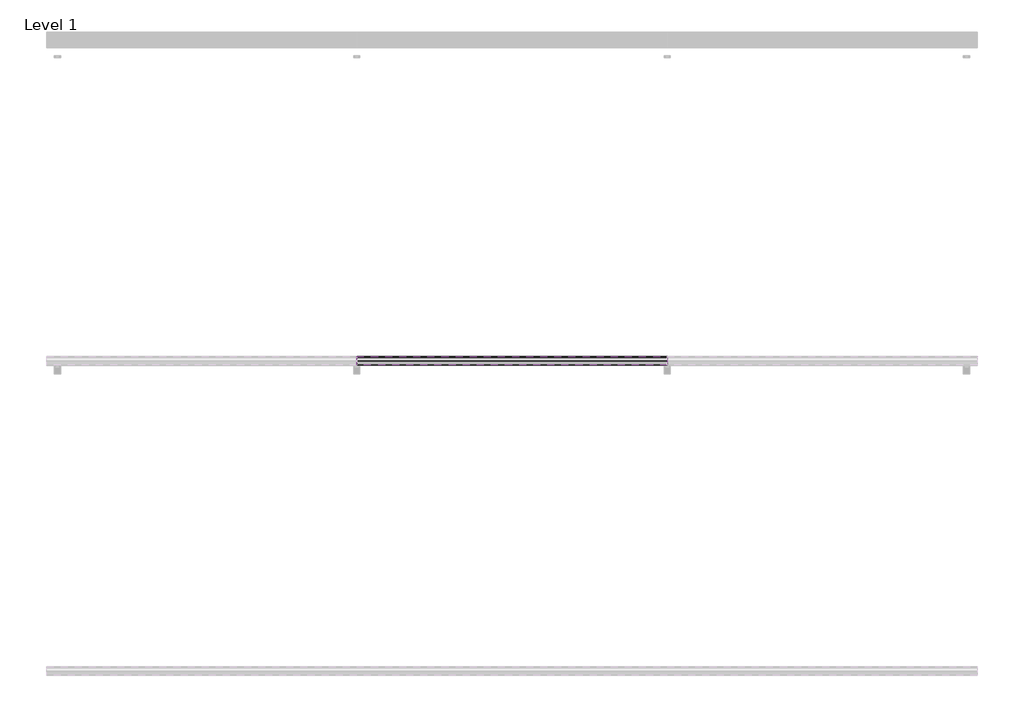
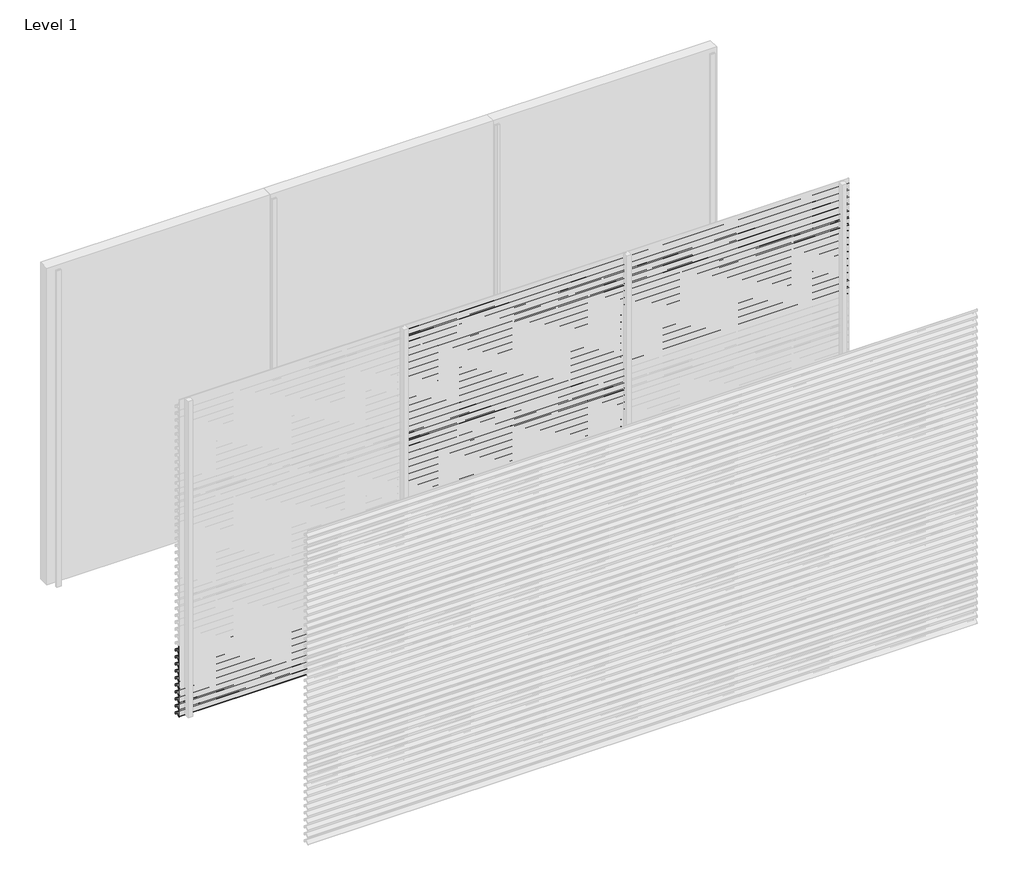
# One storey, part 14 of 27: 71 proxies.
"""IFC4 building model written with IfcOpenShell, lengths in millimetres."""

from ifc_helpers import new_model, si_unit, frame, origin, place, context, project, spatial, polyline, outline, extrude, element, save

model = new_model("IFC4")

# Units and contexts
model_context = context("Model", 3, world=origin())
ifc_project = project(units=[si_unit("LENGTHUNIT", "METRE", prefix="MILLI")], contexts=[model_context])

# Site, building, storey
site = spatial("IfcSite", under=ifc_project)
building = spatial("IfcBuilding", under=site)
storey = spatial("IfcBuildingStorey", under=building, Name="Level 1", Elevation=0.0)

# Proxies
placement = place(None, origin())
element("IfcBuildingElementProxy", 1, Name="Wall Sweeps", at=placement, inside=storey, context=model_context, shape_type="SweptSolid", body=[
    extrude(outline(polyline([(-29943.0, 603.2), (-29943.0, 583.5), (-29944.25, 584.5866084), (-29944.25, 602.4872415), (-29963.0322086, 615.6010889), (-29995.1332975, 583.5), (-29996.0525363, 584.4192388), (-29964.1148087, 616.3569665), (-29998.0, 640.0158044), (-29998.0, 660.0), (-29996.75, 660.0), (-29996.75, 640.7285629), (-29943.0, 603.2)])), frame((0.0, 0.0, 0.0), z_axis=(1.0, 0.0, 0.0), x_axis=(0.0, 1.0, 0.0)), (0.0, 0.0, 1.0), 2000.0),
])
element("IfcBuildingElementProxy", 2, Name="Wall Sweeps", at=placement, inside=storey, context=model_context, shape_type="SweptSolid", body=[
    extrude(outline(polyline([(-29943.0, 537.2), (-29943.0, 517.5), (-29944.25, 518.5866084), (-29944.25, 536.4872415), (-29963.0322086, 549.6010889), (-29995.1332975, 517.5), (-29996.0525363, 518.4192388), (-29964.1148087, 550.3569665), (-29998.0, 574.0158044), (-29998.0, 594.0), (-29996.75, 594.0), (-29996.75, 574.7285629), (-29943.0, 537.2)])), frame((0.0, 0.0, 0.0), z_axis=(1.0, 0.0, 0.0), x_axis=(0.0, 1.0, 0.0)), (0.0, 0.0, 1.0), 2000.0),
])
element("IfcBuildingElementProxy", 3, Name="Wall Sweeps", at=placement, inside=storey, context=model_context, shape_type="SweptSolid", body=[
    extrude(outline(polyline([(-29943.0, 471.2), (-29943.0, 451.5), (-29944.25, 452.5866084), (-29944.25, 470.4872415), (-29963.0322086, 483.6010889), (-29995.1332975, 451.5), (-29996.0525363, 452.4192388), (-29964.1148087, 484.3569665), (-29998.0, 508.0158044), (-29998.0, 528.0), (-29996.75, 528.0), (-29996.75, 508.7285629), (-29943.0, 471.2)])), frame((0.0, 0.0, 0.0), z_axis=(1.0, 0.0, 0.0), x_axis=(0.0, 1.0, 0.0)), (0.0, 0.0, 1.0), 2000.0),
])
element("IfcBuildingElementProxy", 4, Name="Wall Sweeps", at=placement, inside=storey, context=model_context, shape_type="SweptSolid", body=[
    extrude(outline(polyline([(-29943.0, 405.2), (-29943.0, 385.5), (-29944.25, 386.5866084), (-29944.25, 404.4872415), (-29963.0322086, 417.6010889), (-29995.1332975, 385.5), (-29996.0525363, 386.4192388), (-29964.1148087, 418.3569665), (-29998.0, 442.0158044), (-29998.0, 462.0), (-29996.75, 462.0), (-29996.75, 442.7285629), (-29943.0, 405.2)])), frame((0.0, 0.0, 0.0), z_axis=(1.0, 0.0, 0.0), x_axis=(0.0, 1.0, 0.0)), (0.0, 0.0, 1.0), 2000.0),
])
element("IfcBuildingElementProxy", 5, Name="Wall Sweeps", at=placement, inside=storey, context=model_context, shape_type="SweptSolid", body=[
    extrude(outline(polyline([(-29943.0, 339.2), (-29943.0, 319.5), (-29944.25, 320.5866084), (-29944.25, 338.4872415), (-29963.0322086, 351.6010889), (-29995.1332975, 319.5), (-29996.0525363, 320.4192388), (-29964.1148087, 352.3569665), (-29998.0, 376.0158044), (-29998.0, 396.0), (-29996.75, 396.0), (-29996.75, 376.7285629), (-29943.0, 339.2)])), frame((0.0, 0.0, 0.0), z_axis=(1.0, 0.0, 0.0), x_axis=(0.0, 1.0, 0.0)), (0.0, 0.0, 1.0), 2000.0),
])
element("IfcBuildingElementProxy", 6, Name="Wall Sweeps", at=placement, inside=storey, context=model_context, shape_type="SweptSolid", body=[
    extrude(outline(polyline([(-29943.0, 273.2), (-29943.0, 253.5), (-29944.25, 254.5866084), (-29944.25, 272.4872415), (-29963.0322086, 285.6010889), (-29995.1332975, 253.5), (-29996.0525363, 254.4192388), (-29964.1148087, 286.3569665), (-29998.0, 310.0158044), (-29998.0, 330.0), (-29996.75, 330.0), (-29996.75, 310.7285629), (-29943.0, 273.2)])), frame((0.0, 0.0, 0.0), z_axis=(1.0, 0.0, 0.0), x_axis=(0.0, 1.0, 0.0)), (0.0, 0.0, 1.0), 2000.0),
])
element("IfcBuildingElementProxy", 7, Name="Wall Sweeps", at=placement, inside=storey, context=model_context, shape_type="SweptSolid", body=[
    extrude(outline(polyline([(-29943.0, 207.2), (-29943.0, 187.5), (-29944.25, 188.5866084), (-29944.25, 206.4872415), (-29963.0322086, 219.6010889), (-29995.1332975, 187.5), (-29996.0525363, 188.4192388), (-29964.1148087, 220.3569665), (-29998.0, 244.0158044), (-29998.0, 264.0), (-29996.75, 264.0), (-29996.75, 244.7285629), (-29943.0, 207.2)])), frame((0.0, 0.0, 0.0), z_axis=(1.0, 0.0, 0.0), x_axis=(0.0, 1.0, 0.0)), (0.0, 0.0, 1.0), 2000.0),
])
element("IfcBuildingElementProxy", 8, Name="Wall Sweeps", at=placement, inside=storey, context=model_context, shape_type="SweptSolid", body=[
    extrude(outline(polyline([(-29943.0, 141.2), (-29943.0, 121.5), (-29944.25, 122.5866084), (-29944.25, 140.4872415), (-29963.0322086, 153.6010889), (-29995.1332975, 121.5), (-29996.0525363, 122.4192388), (-29964.1148087, 154.3569665), (-29998.0, 178.0158044), (-29998.0, 198.0), (-29996.75, 198.0), (-29996.75, 178.7285629), (-29943.0, 141.2)])), frame((0.0, 0.0, 0.0), z_axis=(1.0, 0.0, 0.0), x_axis=(0.0, 1.0, 0.0)), (0.0, 0.0, 1.0), 2000.0),
])
element("IfcBuildingElementProxy", 9, Name="Wall Sweeps", at=placement, inside=storey, context=model_context, shape_type="SweptSolid", body=[
    extrude(outline(polyline([(-29943.0, 75.2), (-29943.0, 55.5), (-29944.25, 56.5866084), (-29944.25, 74.4872415), (-29963.0322086, 87.6010889), (-29995.1332975, 55.5), (-29996.0525363, 56.4192388), (-29964.1148087, 88.3569665), (-29998.0, 112.0158044), (-29998.0, 132.0), (-29996.75, 132.0), (-29996.75, 112.7285629), (-29943.0, 75.2)])), frame((0.0, 0.0, 0.0), z_axis=(1.0, 0.0, 0.0), x_axis=(0.0, 1.0, 0.0)), (0.0, 0.0, 1.0), 2000.0),
])
element("IfcBuildingElementProxy", 10, Name="Wall Sweeps", at=placement, inside=storey, context=model_context, shape_type="SweptSolid", body=[
    extrude(outline(polyline([(-29943.0, 9.2), (-29943.0, -10.5), (-29944.25, -9.4133916), (-29944.25, 8.4872415), (-29963.0322086, 21.6010889), (-29995.1332975, -10.5), (-29996.0525363, -9.5807612), (-29964.1148087, 22.3569665), (-29998.0, 46.0158044), (-29998.0, 66.0), (-29996.75, 66.0), (-29996.75, 46.7285629), (-29943.0, 9.2)])), frame((0.0, 0.0, 0.0), z_axis=(1.0, 0.0, 0.0), x_axis=(0.0, 1.0, 0.0)), (0.0, 0.0, 1.0), 2000.0),
])
element("IfcBuildingElementProxy", 11, Name="Wall Sweeps", at=placement, inside=storey, context=model_context, shape_type="SweptSolid", body=[
    extrude(outline(polyline([(-29943.0, 2913.2), (-29943.0, 2893.5), (-29944.25, 2894.5866084), (-29944.25, 2912.4872415), (-29963.0322086, 2925.6010889), (-29995.1332975, 2893.5), (-29996.0525363, 2894.4192388), (-29964.1148087, 2926.3569665), (-29998.0, 2950.0158044), (-29998.0, 2970.0), (-29996.75, 2970.0), (-29996.75, 2950.7285629), (-29943.0, 2913.2)])), frame((2000.0, 0.0, 0.0), z_axis=(1.0, 0.0, 0.0), x_axis=(0.0, 1.0, 0.0)), (0.0, 0.0, 1.0), 2000.0),
])
element("IfcBuildingElementProxy", 12, Name="Wall Sweeps", at=placement, inside=storey, context=model_context, shape_type="SweptSolid", body=[
    extrude(outline(polyline([(-29943.0, 2847.2), (-29943.0, 2827.5), (-29944.25, 2828.5866084), (-29944.25, 2846.4872415), (-29963.0322086, 2859.6010889), (-29995.1332975, 2827.5), (-29996.0525363, 2828.4192388), (-29964.1148087, 2860.3569665), (-29998.0, 2884.0158044), (-29998.0, 2904.0), (-29996.75, 2904.0), (-29996.75, 2884.7285629), (-29943.0, 2847.2)])), frame((2000.0, 0.0, 0.0), z_axis=(1.0, 0.0, 0.0), x_axis=(0.0, 1.0, 0.0)), (0.0, 0.0, 1.0), 2000.0),
])
element("IfcBuildingElementProxy", 13, Name="Wall Sweeps", at=placement, inside=storey, context=model_context, shape_type="SweptSolid", body=[
    extrude(outline(polyline([(-29943.0, 2781.2), (-29943.0, 2761.5), (-29944.25, 2762.5866084), (-29944.25, 2780.4872415), (-29963.0322086, 2793.6010889), (-29995.1332975, 2761.5), (-29996.0525363, 2762.4192388), (-29964.1148087, 2794.3569665), (-29998.0, 2818.0158044), (-29998.0, 2838.0), (-29996.75, 2838.0), (-29996.75, 2818.7285629), (-29943.0, 2781.2)])), frame((2000.0, 0.0, 0.0), z_axis=(1.0, 0.0, 0.0), x_axis=(0.0, 1.0, 0.0)), (0.0, 0.0, 1.0), 2000.0),
])
element("IfcBuildingElementProxy", 14, Name="Wall Sweeps", at=placement, inside=storey, context=model_context, shape_type="SweptSolid", body=[
    extrude(outline(polyline([(-29943.0, 2715.2), (-29943.0, 2695.5), (-29944.25, 2696.5866084), (-29944.25, 2714.4872415), (-29963.0322086, 2727.6010889), (-29995.1332975, 2695.5), (-29996.0525363, 2696.4192388), (-29964.1148087, 2728.3569665), (-29998.0, 2752.0158044), (-29998.0, 2772.0), (-29996.75, 2772.0), (-29996.75, 2752.7285629), (-29943.0, 2715.2)])), frame((2000.0, 0.0, 0.0), z_axis=(1.0, 0.0, 0.0), x_axis=(0.0, 1.0, 0.0)), (0.0, 0.0, 1.0), 2000.0),
])
element("IfcBuildingElementProxy", 15, Name="Wall Sweeps", at=placement, inside=storey, context=model_context, shape_type="SweptSolid", body=[
    extrude(outline(polyline([(-29943.0, 2649.2), (-29943.0, 2629.5), (-29944.25, 2630.5866084), (-29944.25, 2648.4872415), (-29963.0322086, 2661.6010889), (-29995.1332975, 2629.5), (-29996.0525363, 2630.4192388), (-29964.1148087, 2662.3569665), (-29998.0, 2686.0158044), (-29998.0, 2706.0), (-29996.75, 2706.0), (-29996.75, 2686.7285629), (-29943.0, 2649.2)])), frame((2000.0, 0.0, 0.0), z_axis=(1.0, 0.0, 0.0), x_axis=(0.0, 1.0, 0.0)), (0.0, 0.0, 1.0), 2000.0),
])
element("IfcBuildingElementProxy", 16, Name="Wall Sweeps", at=placement, inside=storey, context=model_context, shape_type="SweptSolid", body=[
    extrude(outline(polyline([(-29943.0, 2583.2), (-29943.0, 2563.5), (-29944.25, 2564.5866084), (-29944.25, 2582.4872415), (-29963.0322086, 2595.6010889), (-29995.1332975, 2563.5), (-29996.0525363, 2564.4192388), (-29964.1148087, 2596.3569665), (-29998.0, 2620.0158044), (-29998.0, 2640.0), (-29996.75, 2640.0), (-29996.75, 2620.7285629), (-29943.0, 2583.2)])), frame((2000.0, 0.0, 0.0), z_axis=(1.0, 0.0, 0.0), x_axis=(0.0, 1.0, 0.0)), (0.0, 0.0, 1.0), 2000.0),
])
element("IfcBuildingElementProxy", 17, Name="Wall Sweeps", at=placement, inside=storey, context=model_context, shape_type="SweptSolid", body=[
    extrude(outline(polyline([(-29943.0, 2517.2), (-29943.0, 2497.5), (-29944.25, 2498.5866084), (-29944.25, 2516.4872415), (-29963.0322086, 2529.6010889), (-29995.1332975, 2497.5), (-29996.0525363, 2498.4192388), (-29964.1148087, 2530.3569665), (-29998.0, 2554.0158044), (-29998.0, 2574.0), (-29996.75, 2574.0), (-29996.75, 2554.7285629), (-29943.0, 2517.2)])), frame((2000.0, 0.0, 0.0), z_axis=(1.0, 0.0, 0.0), x_axis=(0.0, 1.0, 0.0)), (0.0, 0.0, 1.0), 2000.0),
])
element("IfcBuildingElementProxy", 18, Name="Wall Sweeps", at=placement, inside=storey, context=model_context, shape_type="SweptSolid", body=[
    extrude(outline(polyline([(-29943.0, 2451.2), (-29943.0, 2431.5), (-29944.25, 2432.5866084), (-29944.25, 2450.4872415), (-29963.0322086, 2463.6010889), (-29995.1332975, 2431.5), (-29996.0525363, 2432.4192388), (-29964.1148087, 2464.3569665), (-29998.0, 2488.0158044), (-29998.0, 2508.0), (-29996.75, 2508.0), (-29996.75, 2488.7285629), (-29943.0, 2451.2)])), frame((2000.0, 0.0, 0.0), z_axis=(1.0, 0.0, 0.0), x_axis=(0.0, 1.0, 0.0)), (0.0, 0.0, 1.0), 2000.0),
])
element("IfcBuildingElementProxy", 19, Name="Wall Sweeps", at=placement, inside=storey, context=model_context, shape_type="SweptSolid", body=[
    extrude(outline(polyline([(-29943.0, 2385.2), (-29943.0, 2365.5), (-29944.25, 2366.5866084), (-29944.25, 2384.4872415), (-29963.0322086, 2397.6010889), (-29995.1332975, 2365.5), (-29996.0525363, 2366.4192388), (-29964.1148087, 2398.3569665), (-29998.0, 2422.0158044), (-29998.0, 2442.0), (-29996.75, 2442.0), (-29996.75, 2422.7285629), (-29943.0, 2385.2)])), frame((2000.0, 0.0, 0.0), z_axis=(1.0, 0.0, 0.0), x_axis=(0.0, 1.0, 0.0)), (0.0, 0.0, 1.0), 2000.0),
])
element("IfcBuildingElementProxy", 20, Name="Wall Sweeps", at=placement, inside=storey, context=model_context, shape_type="SweptSolid", body=[
    extrude(outline(polyline([(-29943.0, 2319.2), (-29943.0, 2299.5), (-29944.25, 2300.5866084), (-29944.25, 2318.4872415), (-29963.0322086, 2331.6010889), (-29995.1332975, 2299.5), (-29996.0525363, 2300.4192388), (-29964.1148087, 2332.3569665), (-29998.0, 2356.0158044), (-29998.0, 2376.0), (-29996.75, 2376.0), (-29996.75, 2356.7285629), (-29943.0, 2319.2)])), frame((2000.0, 0.0, 0.0), z_axis=(1.0, 0.0, 0.0), x_axis=(0.0, 1.0, 0.0)), (0.0, 0.0, 1.0), 2000.0),
])
element("IfcBuildingElementProxy", 21, Name="Wall Sweeps", at=placement, inside=storey, context=model_context, shape_type="SweptSolid", body=[
    extrude(outline(polyline([(-29943.0, 2253.2), (-29943.0, 2233.5), (-29944.25, 2234.5866084), (-29944.25, 2252.4872415), (-29963.0322086, 2265.6010889), (-29995.1332975, 2233.5), (-29996.0525363, 2234.4192388), (-29964.1148087, 2266.3569665), (-29998.0, 2290.0158044), (-29998.0, 2310.0), (-29996.75, 2310.0), (-29996.75, 2290.7285629), (-29943.0, 2253.2)])), frame((2000.0, 0.0, 0.0), z_axis=(1.0, 0.0, 0.0), x_axis=(0.0, 1.0, 0.0)), (0.0, 0.0, 1.0), 2000.0),
])
element("IfcBuildingElementProxy", 22, Name="Wall Sweeps", at=placement, inside=storey, context=model_context, shape_type="SweptSolid", body=[
    extrude(outline(polyline([(-29943.0, 2187.2), (-29943.0, 2167.5), (-29944.25, 2168.5866084), (-29944.25, 2186.4872415), (-29963.0322086, 2199.6010889), (-29995.1332975, 2167.5), (-29996.0525363, 2168.4192388), (-29964.1148087, 2200.3569665), (-29998.0, 2224.0158044), (-29998.0, 2244.0), (-29996.75, 2244.0), (-29996.75, 2224.7285629), (-29943.0, 2187.2)])), frame((2000.0, 0.0, 0.0), z_axis=(1.0, 0.0, 0.0), x_axis=(0.0, 1.0, 0.0)), (0.0, 0.0, 1.0), 2000.0),
])
element("IfcBuildingElementProxy", 23, Name="Wall Sweeps", at=placement, inside=storey, context=model_context, shape_type="SweptSolid", body=[
    extrude(outline(polyline([(-29943.0, 2121.2), (-29943.0, 2101.5), (-29944.25, 2102.5866084), (-29944.25, 2120.4872415), (-29963.0322086, 2133.6010889), (-29995.1332975, 2101.5), (-29996.0525363, 2102.4192388), (-29964.1148087, 2134.3569665), (-29998.0, 2158.0158044), (-29998.0, 2178.0), (-29996.75, 2178.0), (-29996.75, 2158.7285629), (-29943.0, 2121.2)])), frame((2000.0, 0.0, 0.0), z_axis=(1.0, 0.0, 0.0), x_axis=(0.0, 1.0, 0.0)), (0.0, 0.0, 1.0), 2000.0),
])
element("IfcBuildingElementProxy", 24, Name="Wall Sweeps", at=placement, inside=storey, context=model_context, shape_type="SweptSolid", body=[
    extrude(outline(polyline([(-29943.0, 2055.2), (-29943.0, 2035.5), (-29944.25, 2036.5866084), (-29944.25, 2054.4872415), (-29963.0322086, 2067.6010889), (-29995.1332975, 2035.5), (-29996.0525363, 2036.4192388), (-29964.1148087, 2068.3569665), (-29998.0, 2092.0158044), (-29998.0, 2112.0), (-29996.75, 2112.0), (-29996.75, 2092.7285629), (-29943.0, 2055.2)])), frame((2000.0, 0.0, 0.0), z_axis=(1.0, 0.0, 0.0), x_axis=(0.0, 1.0, 0.0)), (0.0, 0.0, 1.0), 2000.0),
])
element("IfcBuildingElementProxy", 25, Name="Wall Sweeps", at=placement, inside=storey, context=model_context, shape_type="SweptSolid", body=[
    extrude(outline(polyline([(-29943.0, 1989.2), (-29943.0, 1969.5), (-29944.25, 1970.5866084), (-29944.25, 1988.4872415), (-29963.0322086, 2001.6010889), (-29995.1332975, 1969.5), (-29996.0525363, 1970.4192388), (-29964.1148087, 2002.3569665), (-29998.0, 2026.0158044), (-29998.0, 2046.0), (-29996.75, 2046.0), (-29996.75, 2026.7285629), (-29943.0, 1989.2)])), frame((2000.0, 0.0, 0.0), z_axis=(1.0, 0.0, 0.0), x_axis=(0.0, 1.0, 0.0)), (0.0, 0.0, 1.0), 2000.0),
])
element("IfcBuildingElementProxy", 26, Name="Wall Sweeps", at=placement, inside=storey, context=model_context, shape_type="SweptSolid", body=[
    extrude(outline(polyline([(-29943.0, 1923.2), (-29943.0, 1903.5), (-29944.25, 1904.5866084), (-29944.25, 1922.4872415), (-29963.0322086, 1935.6010889), (-29995.1332975, 1903.5), (-29996.0525363, 1904.4192388), (-29964.1148087, 1936.3569665), (-29998.0, 1960.0158044), (-29998.0, 1980.0), (-29996.75, 1980.0), (-29996.75, 1960.7285629), (-29943.0, 1923.2)])), frame((2000.0, 0.0, 0.0), z_axis=(1.0, 0.0, 0.0), x_axis=(0.0, 1.0, 0.0)), (0.0, 0.0, 1.0), 2000.0),
])
element("IfcBuildingElementProxy", 27, Name="Wall Sweeps", at=placement, inside=storey, context=model_context, shape_type="SweptSolid", body=[
    extrude(outline(polyline([(-29943.0, 1857.2), (-29943.0, 1837.5), (-29944.25, 1838.5866084), (-29944.25, 1856.4872415), (-29963.0322086, 1869.6010889), (-29995.1332975, 1837.5), (-29996.0525363, 1838.4192388), (-29964.1148087, 1870.3569665), (-29998.0, 1894.0158044), (-29998.0, 1914.0), (-29996.75, 1914.0), (-29996.75, 1894.7285629), (-29943.0, 1857.2)])), frame((2000.0, 0.0, 0.0), z_axis=(1.0, 0.0, 0.0), x_axis=(0.0, 1.0, 0.0)), (0.0, 0.0, 1.0), 2000.0),
])
element("IfcBuildingElementProxy", 28, Name="Wall Sweeps", at=placement, inside=storey, context=model_context, shape_type="SweptSolid", body=[
    extrude(outline(polyline([(-29943.0, 1791.2), (-29943.0, 1771.5), (-29944.25, 1772.5866084), (-29944.25, 1790.4872415), (-29963.0322086, 1803.6010889), (-29995.1332975, 1771.5), (-29996.0525363, 1772.4192388), (-29964.1148087, 1804.3569665), (-29998.0, 1828.0158044), (-29998.0, 1848.0), (-29996.75, 1848.0), (-29996.75, 1828.7285629), (-29943.0, 1791.2)])), frame((2000.0, 0.0, 0.0), z_axis=(1.0, 0.0, 0.0), x_axis=(0.0, 1.0, 0.0)), (0.0, 0.0, 1.0), 2000.0),
])
element("IfcBuildingElementProxy", 29, Name="Wall Sweeps", at=placement, inside=storey, context=model_context, shape_type="SweptSolid", body=[
    extrude(outline(polyline([(-29943.0, 1725.2), (-29943.0, 1705.5), (-29944.25, 1706.5866084), (-29944.25, 1724.4872415), (-29963.0322086, 1737.6010889), (-29995.1332975, 1705.5), (-29996.0525363, 1706.4192388), (-29964.1148087, 1738.3569665), (-29998.0, 1762.0158044), (-29998.0, 1782.0), (-29996.75, 1782.0), (-29996.75, 1762.7285629), (-29943.0, 1725.2)])), frame((2000.0, 0.0, 0.0), z_axis=(1.0, 0.0, 0.0), x_axis=(0.0, 1.0, 0.0)), (0.0, 0.0, 1.0), 2000.0),
])
element("IfcBuildingElementProxy", 30, Name="Wall Sweeps", at=placement, inside=storey, context=model_context, shape_type="SweptSolid", body=[
    extrude(outline(polyline([(-29943.0, 1659.2), (-29943.0, 1639.5), (-29944.25, 1640.5866084), (-29944.25, 1658.4872415), (-29963.0322086, 1671.6010889), (-29995.1332975, 1639.5), (-29996.0525363, 1640.4192388), (-29964.1148087, 1672.3569665), (-29998.0, 1696.0158044), (-29998.0, 1716.0), (-29996.75, 1716.0), (-29996.75, 1696.7285629), (-29943.0, 1659.2)])), frame((2000.0, 0.0, 0.0), z_axis=(1.0, 0.0, 0.0), x_axis=(0.0, 1.0, 0.0)), (0.0, 0.0, 1.0), 2000.0),
])
element("IfcBuildingElementProxy", 31, Name="Wall Sweeps", at=placement, inside=storey, context=model_context, shape_type="SweptSolid", body=[
    extrude(outline(polyline([(-29943.0, 1593.2), (-29943.0, 1573.5), (-29944.25, 1574.5866084), (-29944.25, 1592.4872415), (-29963.0322086, 1605.6010889), (-29995.1332975, 1573.5), (-29996.0525363, 1574.4192388), (-29964.1148087, 1606.3569665), (-29998.0, 1630.0158044), (-29998.0, 1650.0), (-29996.75, 1650.0), (-29996.75, 1630.7285629), (-29943.0, 1593.2)])), frame((2000.0, 0.0, 0.0), z_axis=(1.0, 0.0, 0.0), x_axis=(0.0, 1.0, 0.0)), (0.0, 0.0, 1.0), 2000.0),
])
element("IfcBuildingElementProxy", 32, Name="Wall Sweeps", at=placement, inside=storey, context=model_context, shape_type="SweptSolid", body=[
    extrude(outline(polyline([(-29943.0, 1527.2), (-29943.0, 1507.5), (-29944.25, 1508.5866084), (-29944.25, 1526.4872415), (-29963.0322086, 1539.6010889), (-29995.1332975, 1507.5), (-29996.0525363, 1508.4192388), (-29964.1148087, 1540.3569665), (-29998.0, 1564.0158044), (-29998.0, 1584.0), (-29996.75, 1584.0), (-29996.75, 1564.7285629), (-29943.0, 1527.2)])), frame((2000.0, 0.0, 0.0), z_axis=(1.0, 0.0, 0.0), x_axis=(0.0, 1.0, 0.0)), (0.0, 0.0, 1.0), 2000.0),
])
element("IfcBuildingElementProxy", 33, Name="Wall Sweeps", at=placement, inside=storey, context=model_context, shape_type="SweptSolid", body=[
    extrude(outline(polyline([(-29943.0, 1461.2), (-29943.0, 1441.5), (-29944.25, 1442.5866084), (-29944.25, 1460.4872415), (-29963.0322086, 1473.6010889), (-29995.1332975, 1441.5), (-29996.0525363, 1442.4192388), (-29964.1148087, 1474.3569665), (-29998.0, 1498.0158044), (-29998.0, 1518.0), (-29996.75, 1518.0), (-29996.75, 1498.7285629), (-29943.0, 1461.2)])), frame((2000.0, 0.0, 0.0), z_axis=(1.0, 0.0, 0.0), x_axis=(0.0, 1.0, 0.0)), (0.0, 0.0, 1.0), 2000.0),
])
element("IfcBuildingElementProxy", 34, Name="Wall Sweeps", at=placement, inside=storey, context=model_context, shape_type="SweptSolid", body=[
    extrude(outline(polyline([(-29943.0, 1395.2), (-29943.0, 1375.5), (-29944.25, 1376.5866084), (-29944.25, 1394.4872415), (-29963.0322086, 1407.6010889), (-29995.1332975, 1375.5), (-29996.0525363, 1376.4192388), (-29964.1148087, 1408.3569665), (-29998.0, 1432.0158044), (-29998.0, 1452.0), (-29996.75, 1452.0), (-29996.75, 1432.7285629), (-29943.0, 1395.2)])), frame((2000.0, 0.0, 0.0), z_axis=(1.0, 0.0, 0.0), x_axis=(0.0, 1.0, 0.0)), (0.0, 0.0, 1.0), 2000.0),
])
element("IfcBuildingElementProxy", 35, Name="Wall Sweeps", at=placement, inside=storey, context=model_context, shape_type="SweptSolid", body=[
    extrude(outline(polyline([(-29943.0, 1329.2), (-29943.0, 1309.5), (-29944.25, 1310.5866084), (-29944.25, 1328.4872415), (-29963.0322086, 1341.6010889), (-29995.1332975, 1309.5), (-29996.0525363, 1310.4192388), (-29964.1148087, 1342.3569665), (-29998.0, 1366.0158044), (-29998.0, 1386.0), (-29996.75, 1386.0), (-29996.75, 1366.7285629), (-29943.0, 1329.2)])), frame((2000.0, 0.0, 0.0), z_axis=(1.0, 0.0, 0.0), x_axis=(0.0, 1.0, 0.0)), (0.0, 0.0, 1.0), 2000.0),
])
element("IfcBuildingElementProxy", 36, Name="Wall Sweeps", at=placement, inside=storey, context=model_context, shape_type="SweptSolid", body=[
    extrude(outline(polyline([(-29943.0, 1263.2), (-29943.0, 1243.5), (-29944.25, 1244.5866084), (-29944.25, 1262.4872415), (-29963.0322086, 1275.6010889), (-29995.1332975, 1243.5), (-29996.0525363, 1244.4192388), (-29964.1148087, 1276.3569665), (-29998.0, 1300.0158044), (-29998.0, 1320.0), (-29996.75, 1320.0), (-29996.75, 1300.7285629), (-29943.0, 1263.2)])), frame((2000.0, 0.0, 0.0), z_axis=(1.0, 0.0, 0.0), x_axis=(0.0, 1.0, 0.0)), (0.0, 0.0, 1.0), 2000.0),
])
element("IfcBuildingElementProxy", 37, Name="Wall Sweeps", at=placement, inside=storey, context=model_context, shape_type="SweptSolid", body=[
    extrude(outline(polyline([(-29943.0, 1197.2), (-29943.0, 1177.5), (-29944.25, 1178.5866084), (-29944.25, 1196.4872415), (-29963.0322086, 1209.6010889), (-29995.1332975, 1177.5), (-29996.0525363, 1178.4192388), (-29964.1148087, 1210.3569665), (-29998.0, 1234.0158044), (-29998.0, 1254.0), (-29996.75, 1254.0), (-29996.75, 1234.7285629), (-29943.0, 1197.2)])), frame((2000.0, 0.0, 0.0), z_axis=(1.0, 0.0, 0.0), x_axis=(0.0, 1.0, 0.0)), (0.0, 0.0, 1.0), 2000.0),
])
element("IfcBuildingElementProxy", 38, Name="Wall Sweeps", at=placement, inside=storey, context=model_context, shape_type="SweptSolid", body=[
    extrude(outline(polyline([(-29943.0, 1131.2), (-29943.0, 1111.5), (-29944.25, 1112.5866084), (-29944.25, 1130.4872415), (-29963.0322086, 1143.6010889), (-29995.1332975, 1111.5), (-29996.0525363, 1112.4192388), (-29964.1148087, 1144.3569665), (-29998.0, 1168.0158044), (-29998.0, 1188.0), (-29996.75, 1188.0), (-29996.75, 1168.7285629), (-29943.0, 1131.2)])), frame((2000.0, 0.0, 0.0), z_axis=(1.0, 0.0, 0.0), x_axis=(0.0, 1.0, 0.0)), (0.0, 0.0, 1.0), 2000.0),
])
element("IfcBuildingElementProxy", 39, Name="Wall Sweeps", at=placement, inside=storey, context=model_context, shape_type="SweptSolid", body=[
    extrude(outline(polyline([(-29943.0, 1065.2), (-29943.0, 1045.5), (-29944.25, 1046.5866084), (-29944.25, 1064.4872415), (-29963.0322086, 1077.6010889), (-29995.1332975, 1045.5), (-29996.0525363, 1046.4192388), (-29964.1148087, 1078.3569665), (-29998.0, 1102.0158044), (-29998.0, 1122.0), (-29996.75, 1122.0), (-29996.75, 1102.7285629), (-29943.0, 1065.2)])), frame((2000.0, 0.0, 0.0), z_axis=(1.0, 0.0, 0.0), x_axis=(0.0, 1.0, 0.0)), (0.0, 0.0, 1.0), 2000.0),
])
element("IfcBuildingElementProxy", 40, Name="Wall Sweeps", at=placement, inside=storey, context=model_context, shape_type="SweptSolid", body=[
    extrude(outline(polyline([(-29943.0, 999.2), (-29943.0, 979.5), (-29944.25, 980.5866084), (-29944.25, 998.4872415), (-29963.0322086, 1011.6010889), (-29995.1332975, 979.5), (-29996.0525363, 980.4192388), (-29964.1148087, 1012.3569665), (-29998.0, 1036.0158044), (-29998.0, 1056.0), (-29996.75, 1056.0), (-29996.75, 1036.7285629), (-29943.0, 999.2)])), frame((2000.0, 0.0, 0.0), z_axis=(1.0, 0.0, 0.0), x_axis=(0.0, 1.0, 0.0)), (0.0, 0.0, 1.0), 2000.0),
])
element("IfcBuildingElementProxy", 41, Name="Wall Sweeps", at=placement, inside=storey, context=model_context, shape_type="SweptSolid", body=[
    extrude(outline(polyline([(-29943.0, 933.2), (-29943.0, 913.5), (-29944.25, 914.5866084), (-29944.25, 932.4872415), (-29963.0322086, 945.6010889), (-29995.1332975, 913.5), (-29996.0525363, 914.4192388), (-29964.1148087, 946.3569665), (-29998.0, 970.0158044), (-29998.0, 990.0), (-29996.75, 990.0), (-29996.75, 970.7285629), (-29943.0, 933.2)])), frame((2000.0, 0.0, 0.0), z_axis=(1.0, 0.0, 0.0), x_axis=(0.0, 1.0, 0.0)), (0.0, 0.0, 1.0), 2000.0),
])
element("IfcBuildingElementProxy", 42, Name="Wall Sweeps", at=placement, inside=storey, context=model_context, shape_type="SweptSolid", body=[
    extrude(outline(polyline([(-29943.0, 867.2), (-29943.0, 847.5), (-29944.25, 848.5866084), (-29944.25, 866.4872415), (-29963.0322086, 879.6010889), (-29995.1332975, 847.5), (-29996.0525363, 848.4192388), (-29964.1148087, 880.3569665), (-29998.0, 904.0158044), (-29998.0, 924.0), (-29996.75, 924.0), (-29996.75, 904.7285629), (-29943.0, 867.2)])), frame((2000.0, 0.0, 0.0), z_axis=(1.0, 0.0, 0.0), x_axis=(0.0, 1.0, 0.0)), (0.0, 0.0, 1.0), 2000.0),
])
element("IfcBuildingElementProxy", 43, Name="Wall Sweeps", at=placement, inside=storey, context=model_context, shape_type="SweptSolid", body=[
    extrude(outline(polyline([(-29943.0, 801.2), (-29943.0, 781.5), (-29944.25, 782.5866084), (-29944.25, 800.4872415), (-29963.0322086, 813.6010889), (-29995.1332975, 781.5), (-29996.0525363, 782.4192388), (-29964.1148087, 814.3569665), (-29998.0, 838.0158044), (-29998.0, 858.0), (-29996.75, 858.0), (-29996.75, 838.7285629), (-29943.0, 801.2)])), frame((2000.0, 0.0, 0.0), z_axis=(1.0, 0.0, 0.0), x_axis=(0.0, 1.0, 0.0)), (0.0, 0.0, 1.0), 2000.0),
])
element("IfcBuildingElementProxy", 44, Name="Wall Sweeps", at=placement, inside=storey, context=model_context, shape_type="SweptSolid", body=[
    extrude(outline(polyline([(-29943.0, 735.2), (-29943.0, 715.5), (-29944.25, 716.5866084), (-29944.25, 734.4872415), (-29963.0322086, 747.6010889), (-29995.1332975, 715.5), (-29996.0525363, 716.4192388), (-29964.1148087, 748.3569665), (-29998.0, 772.0158044), (-29998.0, 792.0), (-29996.75, 792.0), (-29996.75, 772.7285629), (-29943.0, 735.2)])), frame((2000.0, 0.0, 0.0), z_axis=(1.0, 0.0, 0.0), x_axis=(0.0, 1.0, 0.0)), (0.0, 0.0, 1.0), 2000.0),
])
element("IfcBuildingElementProxy", 45, Name="Wall Sweeps", at=placement, inside=storey, context=model_context, shape_type="SweptSolid", body=[
    extrude(outline(polyline([(-29943.0, 669.2), (-29943.0, 649.5), (-29944.25, 650.5866084), (-29944.25, 668.4872415), (-29963.0322086, 681.6010889), (-29995.1332975, 649.5), (-29996.0525363, 650.4192388), (-29964.1148087, 682.3569665), (-29998.0, 706.0158044), (-29998.0, 726.0), (-29996.75, 726.0), (-29996.75, 706.7285629), (-29943.0, 669.2)])), frame((2000.0, 0.0, 0.0), z_axis=(1.0, 0.0, 0.0), x_axis=(0.0, 1.0, 0.0)), (0.0, 0.0, 1.0), 2000.0),
])
element("IfcBuildingElementProxy", 46, Name="Wall Sweeps", at=placement, inside=storey, context=model_context, shape_type="SweptSolid", body=[
    extrude(outline(polyline([(-29943.0, 603.2), (-29943.0, 583.5), (-29944.25, 584.5866084), (-29944.25, 602.4872415), (-29963.0322086, 615.6010889), (-29995.1332975, 583.5), (-29996.0525363, 584.4192388), (-29964.1148087, 616.3569665), (-29998.0, 640.0158044), (-29998.0, 660.0), (-29996.75, 660.0), (-29996.75, 640.7285629), (-29943.0, 603.2)])), frame((2000.0, 0.0, 0.0), z_axis=(1.0, 0.0, 0.0), x_axis=(0.0, 1.0, 0.0)), (0.0, 0.0, 1.0), 2000.0),
])
element("IfcBuildingElementProxy", 47, Name="Wall Sweeps", at=placement, inside=storey, context=model_context, shape_type="SweptSolid", body=[
    extrude(outline(polyline([(-29943.0, 537.2), (-29943.0, 517.5), (-29944.25, 518.5866084), (-29944.25, 536.4872415), (-29963.0322086, 549.6010889), (-29995.1332975, 517.5), (-29996.0525363, 518.4192388), (-29964.1148087, 550.3569665), (-29998.0, 574.0158044), (-29998.0, 594.0), (-29996.75, 594.0), (-29996.75, 574.7285629), (-29943.0, 537.2)])), frame((2000.0, 0.0, 0.0), z_axis=(1.0, 0.0, 0.0), x_axis=(0.0, 1.0, 0.0)), (0.0, 0.0, 1.0), 2000.0),
])
element("IfcBuildingElementProxy", 48, Name="Wall Sweeps", at=placement, inside=storey, context=model_context, shape_type="SweptSolid", body=[
    extrude(outline(polyline([(-29943.0, 471.2), (-29943.0, 451.5), (-29944.25, 452.5866084), (-29944.25, 470.4872415), (-29963.0322086, 483.6010889), (-29995.1332975, 451.5), (-29996.0525363, 452.4192388), (-29964.1148087, 484.3569665), (-29998.0, 508.0158044), (-29998.0, 528.0), (-29996.75, 528.0), (-29996.75, 508.7285629), (-29943.0, 471.2)])), frame((2000.0, 0.0, 0.0), z_axis=(1.0, 0.0, 0.0), x_axis=(0.0, 1.0, 0.0)), (0.0, 0.0, 1.0), 2000.0),
])
element("IfcBuildingElementProxy", 49, Name="Wall Sweeps", at=placement, inside=storey, context=model_context, shape_type="SweptSolid", body=[
    extrude(outline(polyline([(-29943.0, 405.2), (-29943.0, 385.5), (-29944.25, 386.5866084), (-29944.25, 404.4872415), (-29963.0322086, 417.6010889), (-29995.1332975, 385.5), (-29996.0525363, 386.4192388), (-29964.1148087, 418.3569665), (-29998.0, 442.0158044), (-29998.0, 462.0), (-29996.75, 462.0), (-29996.75, 442.7285629), (-29943.0, 405.2)])), frame((2000.0, 0.0, 0.0), z_axis=(1.0, 0.0, 0.0), x_axis=(0.0, 1.0, 0.0)), (0.0, 0.0, 1.0), 2000.0),
])
element("IfcBuildingElementProxy", 50, Name="Wall Sweeps", at=placement, inside=storey, context=model_context, shape_type="SweptSolid", body=[
    extrude(outline(polyline([(-29943.0, 339.2), (-29943.0, 319.5), (-29944.25, 320.5866084), (-29944.25, 338.4872415), (-29963.0322086, 351.6010889), (-29995.1332975, 319.5), (-29996.0525363, 320.4192388), (-29964.1148087, 352.3569665), (-29998.0, 376.0158044), (-29998.0, 396.0), (-29996.75, 396.0), (-29996.75, 376.7285629), (-29943.0, 339.2)])), frame((2000.0, 0.0, 0.0), z_axis=(1.0, 0.0, 0.0), x_axis=(0.0, 1.0, 0.0)), (0.0, 0.0, 1.0), 2000.0),
])
element("IfcBuildingElementProxy", 51, Name="Wall Sweeps", at=placement, inside=storey, context=model_context, shape_type="SweptSolid", body=[
    extrude(outline(polyline([(-29943.0, 273.2), (-29943.0, 253.5), (-29944.25, 254.5866084), (-29944.25, 272.4872415), (-29963.0322086, 285.6010889), (-29995.1332975, 253.5), (-29996.0525363, 254.4192388), (-29964.1148087, 286.3569665), (-29998.0, 310.0158044), (-29998.0, 330.0), (-29996.75, 330.0), (-29996.75, 310.7285629), (-29943.0, 273.2)])), frame((2000.0, 0.0, 0.0), z_axis=(1.0, 0.0, 0.0), x_axis=(0.0, 1.0, 0.0)), (0.0, 0.0, 1.0), 2000.0),
])
element("IfcBuildingElementProxy", 52, Name="Wall Sweeps", at=placement, inside=storey, context=model_context, shape_type="SweptSolid", body=[
    extrude(outline(polyline([(-29943.0, 207.2), (-29943.0, 187.5), (-29944.25, 188.5866084), (-29944.25, 206.4872415), (-29963.0322086, 219.6010889), (-29995.1332975, 187.5), (-29996.0525363, 188.4192388), (-29964.1148087, 220.3569665), (-29998.0, 244.0158044), (-29998.0, 264.0), (-29996.75, 264.0), (-29996.75, 244.7285629), (-29943.0, 207.2)])), frame((2000.0, 0.0, 0.0), z_axis=(1.0, 0.0, 0.0), x_axis=(0.0, 1.0, 0.0)), (0.0, 0.0, 1.0), 2000.0),
])
element("IfcBuildingElementProxy", 53, Name="Wall Sweeps", at=placement, inside=storey, context=model_context, shape_type="SweptSolid", body=[
    extrude(outline(polyline([(-29943.0, 141.2), (-29943.0, 121.5), (-29944.25, 122.5866084), (-29944.25, 140.4872415), (-29963.0322086, 153.6010889), (-29995.1332975, 121.5), (-29996.0525363, 122.4192388), (-29964.1148087, 154.3569665), (-29998.0, 178.0158044), (-29998.0, 198.0), (-29996.75, 198.0), (-29996.75, 178.7285629), (-29943.0, 141.2)])), frame((2000.0, 0.0, 0.0), z_axis=(1.0, 0.0, 0.0), x_axis=(0.0, 1.0, 0.0)), (0.0, 0.0, 1.0), 2000.0),
])
element("IfcBuildingElementProxy", 54, Name="Wall Sweeps", at=placement, inside=storey, context=model_context, shape_type="SweptSolid", body=[
    extrude(outline(polyline([(-29943.0, 75.2), (-29943.0, 55.5), (-29944.25, 56.5866084), (-29944.25, 74.4872415), (-29963.0322086, 87.6010889), (-29995.1332975, 55.5), (-29996.0525363, 56.4192388), (-29964.1148087, 88.3569665), (-29998.0, 112.0158044), (-29998.0, 132.0), (-29996.75, 132.0), (-29996.75, 112.7285629), (-29943.0, 75.2)])), frame((2000.0, 0.0, 0.0), z_axis=(1.0, 0.0, 0.0), x_axis=(0.0, 1.0, 0.0)), (0.0, 0.0, 1.0), 2000.0),
])
element("IfcBuildingElementProxy", 55, Name="Wall Sweeps", at=placement, inside=storey, context=model_context, shape_type="SweptSolid", body=[
    extrude(outline(polyline([(-29943.0, 9.2), (-29943.0, -10.5), (-29944.25, -9.4133916), (-29944.25, 8.4872415), (-29963.0322086, 21.6010889), (-29995.1332975, -10.5), (-29996.0525363, -9.5807612), (-29964.1148087, 22.3569665), (-29998.0, 46.0158044), (-29998.0, 66.0), (-29996.75, 66.0), (-29996.75, 46.7285629), (-29943.0, 9.2)])), frame((2000.0, 0.0, 0.0), z_axis=(1.0, 0.0, 0.0), x_axis=(0.0, 1.0, 0.0)), (0.0, 0.0, 1.0), 2000.0),
])
element("IfcBuildingElementProxy", 56, Name="Wall Sweeps", at=placement, inside=storey, context=model_context, shape_type="SweptSolid", body=[
    extrude(outline(polyline([(-29943.0, 2913.2), (-29943.0, 2893.5), (-29944.25, 2894.5866084), (-29944.25, 2912.4872415), (-29963.0322086, 2925.6010889), (-29995.1332975, 2893.5), (-29996.0525363, 2894.4192388), (-29964.1148087, 2926.3569665), (-29998.0, 2950.0158044), (-29998.0, 2970.0), (-29996.75, 2970.0), (-29996.75, 2950.7285629), (-29943.0, 2913.2)])), frame((4000.0, 0.0, 0.0), z_axis=(1.0, 0.0, 0.0), x_axis=(0.0, 1.0, 0.0)), (0.0, 0.0, 1.0), 2000.0),
])
element("IfcBuildingElementProxy", 57, Name="Wall Sweeps", at=placement, inside=storey, context=model_context, shape_type="SweptSolid", body=[
    extrude(outline(polyline([(-29943.0, 2847.2), (-29943.0, 2827.5), (-29944.25, 2828.5866084), (-29944.25, 2846.4872415), (-29963.0322086, 2859.6010889), (-29995.1332975, 2827.5), (-29996.0525363, 2828.4192388), (-29964.1148087, 2860.3569665), (-29998.0, 2884.0158044), (-29998.0, 2904.0), (-29996.75, 2904.0), (-29996.75, 2884.7285629), (-29943.0, 2847.2)])), frame((4000.0, 0.0, 0.0), z_axis=(1.0, 0.0, 0.0), x_axis=(0.0, 1.0, 0.0)), (0.0, 0.0, 1.0), 2000.0),
])
element("IfcBuildingElementProxy", 58, Name="Wall Sweeps", at=placement, inside=storey, context=model_context, shape_type="SweptSolid", body=[
    extrude(outline(polyline([(-29943.0, 2781.2), (-29943.0, 2761.5), (-29944.25, 2762.5866084), (-29944.25, 2780.4872415), (-29963.0322086, 2793.6010889), (-29995.1332975, 2761.5), (-29996.0525363, 2762.4192388), (-29964.1148087, 2794.3569665), (-29998.0, 2818.0158044), (-29998.0, 2838.0), (-29996.75, 2838.0), (-29996.75, 2818.7285629), (-29943.0, 2781.2)])), frame((4000.0, 0.0, 0.0), z_axis=(1.0, 0.0, 0.0), x_axis=(0.0, 1.0, 0.0)), (0.0, 0.0, 1.0), 2000.0),
])
element("IfcBuildingElementProxy", 59, Name="Wall Sweeps", at=placement, inside=storey, context=model_context, shape_type="SweptSolid", body=[
    extrude(outline(polyline([(-29943.0, 2715.2), (-29943.0, 2695.5), (-29944.25, 2696.5866084), (-29944.25, 2714.4872415), (-29963.0322086, 2727.6010889), (-29995.1332975, 2695.5), (-29996.0525363, 2696.4192388), (-29964.1148087, 2728.3569665), (-29998.0, 2752.0158044), (-29998.0, 2772.0), (-29996.75, 2772.0), (-29996.75, 2752.7285629), (-29943.0, 2715.2)])), frame((4000.0, 0.0, 0.0), z_axis=(1.0, 0.0, 0.0), x_axis=(0.0, 1.0, 0.0)), (0.0, 0.0, 1.0), 2000.0),
])
element("IfcBuildingElementProxy", 60, Name="Wall Sweeps", at=placement, inside=storey, context=model_context, shape_type="SweptSolid", body=[
    extrude(outline(polyline([(-29943.0, 2649.2), (-29943.0, 2629.5), (-29944.25, 2630.5866084), (-29944.25, 2648.4872415), (-29963.0322086, 2661.6010889), (-29995.1332975, 2629.5), (-29996.0525363, 2630.4192388), (-29964.1148087, 2662.3569665), (-29998.0, 2686.0158044), (-29998.0, 2706.0), (-29996.75, 2706.0), (-29996.75, 2686.7285629), (-29943.0, 2649.2)])), frame((4000.0, 0.0, 0.0), z_axis=(1.0, 0.0, 0.0), x_axis=(0.0, 1.0, 0.0)), (0.0, 0.0, 1.0), 2000.0),
])
element("IfcBuildingElementProxy", 61, Name="Wall Sweeps", at=placement, inside=storey, context=model_context, shape_type="SweptSolid", body=[
    extrude(outline(polyline([(-29943.0, 2583.2), (-29943.0, 2563.5), (-29944.25, 2564.5866084), (-29944.25, 2582.4872415), (-29963.0322086, 2595.6010889), (-29995.1332975, 2563.5), (-29996.0525363, 2564.4192388), (-29964.1148087, 2596.3569665), (-29998.0, 2620.0158044), (-29998.0, 2640.0), (-29996.75, 2640.0), (-29996.75, 2620.7285629), (-29943.0, 2583.2)])), frame((4000.0, 0.0, 0.0), z_axis=(1.0, 0.0, 0.0), x_axis=(0.0, 1.0, 0.0)), (0.0, 0.0, 1.0), 2000.0),
])
element("IfcBuildingElementProxy", 62, Name="Wall Sweeps", at=placement, inside=storey, context=model_context, shape_type="SweptSolid", body=[
    extrude(outline(polyline([(-29943.0, 2517.2), (-29943.0, 2497.5), (-29944.25, 2498.5866084), (-29944.25, 2516.4872415), (-29963.0322086, 2529.6010889), (-29995.1332975, 2497.5), (-29996.0525363, 2498.4192388), (-29964.1148087, 2530.3569665), (-29998.0, 2554.0158044), (-29998.0, 2574.0), (-29996.75, 2574.0), (-29996.75, 2554.7285629), (-29943.0, 2517.2)])), frame((4000.0, 0.0, 0.0), z_axis=(1.0, 0.0, 0.0), x_axis=(0.0, 1.0, 0.0)), (0.0, 0.0, 1.0), 2000.0),
])
element("IfcBuildingElementProxy", 63, Name="Wall Sweeps", at=placement, inside=storey, context=model_context, shape_type="SweptSolid", body=[
    extrude(outline(polyline([(-29943.0, 2451.2), (-29943.0, 2431.5), (-29944.25, 2432.5866084), (-29944.25, 2450.4872415), (-29963.0322086, 2463.6010889), (-29995.1332975, 2431.5), (-29996.0525363, 2432.4192388), (-29964.1148087, 2464.3569665), (-29998.0, 2488.0158044), (-29998.0, 2508.0), (-29996.75, 2508.0), (-29996.75, 2488.7285629), (-29943.0, 2451.2)])), frame((4000.0, 0.0, 0.0), z_axis=(1.0, 0.0, 0.0), x_axis=(0.0, 1.0, 0.0)), (0.0, 0.0, 1.0), 2000.0),
])
element("IfcBuildingElementProxy", 64, Name="Wall Sweeps", at=placement, inside=storey, context=model_context, shape_type="SweptSolid", body=[
    extrude(outline(polyline([(-29943.0, 2385.2), (-29943.0, 2365.5), (-29944.25, 2366.5866084), (-29944.25, 2384.4872415), (-29963.0322086, 2397.6010889), (-29995.1332975, 2365.5), (-29996.0525363, 2366.4192388), (-29964.1148087, 2398.3569665), (-29998.0, 2422.0158044), (-29998.0, 2442.0), (-29996.75, 2442.0), (-29996.75, 2422.7285629), (-29943.0, 2385.2)])), frame((4000.0, 0.0, 0.0), z_axis=(1.0, 0.0, 0.0), x_axis=(0.0, 1.0, 0.0)), (0.0, 0.0, 1.0), 2000.0),
])
element("IfcBuildingElementProxy", 65, Name="Wall Sweeps", at=placement, inside=storey, context=model_context, shape_type="SweptSolid", body=[
    extrude(outline(polyline([(-29943.0, 2319.2), (-29943.0, 2299.5), (-29944.25, 2300.5866084), (-29944.25, 2318.4872415), (-29963.0322086, 2331.6010889), (-29995.1332975, 2299.5), (-29996.0525363, 2300.4192388), (-29964.1148087, 2332.3569665), (-29998.0, 2356.0158044), (-29998.0, 2376.0), (-29996.75, 2376.0), (-29996.75, 2356.7285629), (-29943.0, 2319.2)])), frame((4000.0, 0.0, 0.0), z_axis=(1.0, 0.0, 0.0), x_axis=(0.0, 1.0, 0.0)), (0.0, 0.0, 1.0), 2000.0),
])
element("IfcBuildingElementProxy", 66, Name="Wall Sweeps", at=placement, inside=storey, context=model_context, shape_type="SweptSolid", body=[
    extrude(outline(polyline([(-29943.0, 2253.2), (-29943.0, 2233.5), (-29944.25, 2234.5866084), (-29944.25, 2252.4872415), (-29963.0322086, 2265.6010889), (-29995.1332975, 2233.5), (-29996.0525363, 2234.4192388), (-29964.1148087, 2266.3569665), (-29998.0, 2290.0158044), (-29998.0, 2310.0), (-29996.75, 2310.0), (-29996.75, 2290.7285629), (-29943.0, 2253.2)])), frame((4000.0, 0.0, 0.0), z_axis=(1.0, 0.0, 0.0), x_axis=(0.0, 1.0, 0.0)), (0.0, 0.0, 1.0), 2000.0),
])
element("IfcBuildingElementProxy", 67, Name="Wall Sweeps", at=placement, inside=storey, context=model_context, shape_type="SweptSolid", body=[
    extrude(outline(polyline([(-29943.0, 2187.2), (-29943.0, 2167.5), (-29944.25, 2168.5866084), (-29944.25, 2186.4872415), (-29963.0322086, 2199.6010889), (-29995.1332975, 2167.5), (-29996.0525363, 2168.4192388), (-29964.1148087, 2200.3569665), (-29998.0, 2224.0158044), (-29998.0, 2244.0), (-29996.75, 2244.0), (-29996.75, 2224.7285629), (-29943.0, 2187.2)])), frame((4000.0, 0.0, 0.0), z_axis=(1.0, 0.0, 0.0), x_axis=(0.0, 1.0, 0.0)), (0.0, 0.0, 1.0), 2000.0),
])
element("IfcBuildingElementProxy", 68, Name="Wall Sweeps", at=placement, inside=storey, context=model_context, shape_type="SweptSolid", body=[
    extrude(outline(polyline([(-29943.0, 2121.2), (-29943.0, 2101.5), (-29944.25, 2102.5866084), (-29944.25, 2120.4872415), (-29963.0322086, 2133.6010889), (-29995.1332975, 2101.5), (-29996.0525363, 2102.4192388), (-29964.1148087, 2134.3569665), (-29998.0, 2158.0158044), (-29998.0, 2178.0), (-29996.75, 2178.0), (-29996.75, 2158.7285629), (-29943.0, 2121.2)])), frame((4000.0, 0.0, 0.0), z_axis=(1.0, 0.0, 0.0), x_axis=(0.0, 1.0, 0.0)), (0.0, 0.0, 1.0), 2000.0),
])
element("IfcBuildingElementProxy", 69, Name="Wall Sweeps", at=placement, inside=storey, context=model_context, shape_type="SweptSolid", body=[
    extrude(outline(polyline([(-29943.0, 2055.2), (-29943.0, 2035.5), (-29944.25, 2036.5866084), (-29944.25, 2054.4872415), (-29963.0322086, 2067.6010889), (-29995.1332975, 2035.5), (-29996.0525363, 2036.4192388), (-29964.1148087, 2068.3569665), (-29998.0, 2092.0158044), (-29998.0, 2112.0), (-29996.75, 2112.0), (-29996.75, 2092.7285629), (-29943.0, 2055.2)])), frame((4000.0, 0.0, 0.0), z_axis=(1.0, 0.0, 0.0), x_axis=(0.0, 1.0, 0.0)), (0.0, 0.0, 1.0), 2000.0),
])
element("IfcBuildingElementProxy", 70, Name="Wall Sweeps", at=placement, inside=storey, context=model_context, shape_type="SweptSolid", body=[
    extrude(outline(polyline([(-29943.0, 1989.2), (-29943.0, 1969.5), (-29944.25, 1970.5866084), (-29944.25, 1988.4872415), (-29963.0322086, 2001.6010889), (-29995.1332975, 1969.5), (-29996.0525363, 1970.4192388), (-29964.1148087, 2002.3569665), (-29998.0, 2026.0158044), (-29998.0, 2046.0), (-29996.75, 2046.0), (-29996.75, 2026.7285629), (-29943.0, 1989.2)])), frame((4000.0, 0.0, 0.0), z_axis=(1.0, 0.0, 0.0), x_axis=(0.0, 1.0, 0.0)), (0.0, 0.0, 1.0), 2000.0),
])
element("IfcBuildingElementProxy", 71, Name="Wall Sweeps", at=placement, inside=storey, context=model_context, shape_type="SweptSolid", body=[
    extrude(outline(polyline([(-29943.0, 1923.2), (-29943.0, 1903.5), (-29944.25, 1904.5866084), (-29944.25, 1922.4872415), (-29963.0322086, 1935.6010889), (-29995.1332975, 1903.5), (-29996.0525363, 1904.4192388), (-29964.1148087, 1936.3569665), (-29998.0, 1960.0158044), (-29998.0, 1980.0), (-29996.75, 1980.0), (-29996.75, 1960.7285629), (-29943.0, 1923.2)])), frame((4000.0, 0.0, 0.0), z_axis=(1.0, 0.0, 0.0), x_axis=(0.0, 1.0, 0.0)), (0.0, 0.0, 1.0), 2000.0),
])

save(model, "model.ifc")
